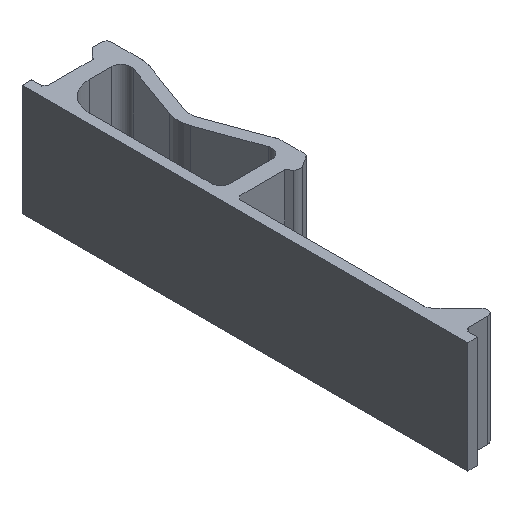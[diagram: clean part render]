
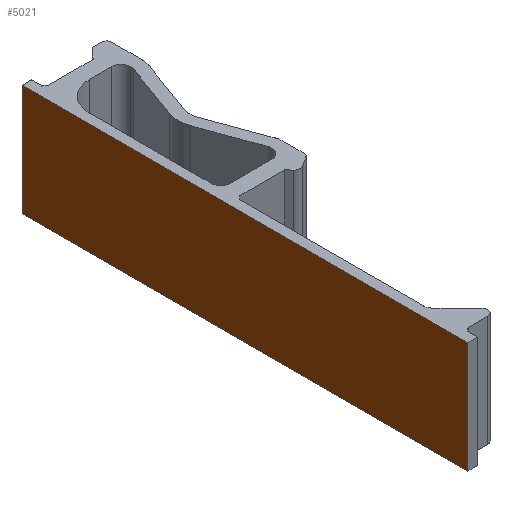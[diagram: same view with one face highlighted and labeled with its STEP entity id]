
A CAD part, isometric view. The second image highlights one B-rep face of the part: STEP entity #5021.
In plain terms, the highlighted planar face has unit normal (-1, 0, 0).
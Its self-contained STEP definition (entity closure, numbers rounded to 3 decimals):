
#2907 = PLANE('',#2908);
#2908 = AXIS2_PLACEMENT_3D('',#2909,#2910,#2911);
#2909 = CARTESIAN_POINT('',(3.25,0.,-5.75));
#2910 = DIRECTION('',(0.,0.,1.));
#2911 = DIRECTION('',(1.,0.,-0.));
#3097 = VERTEX_POINT('',#3098);
#3098 = CARTESIAN_POINT('',(-1.,-34.85,-5.75));
#3112 = PLANE('',#3113);
#3113 = AXIS2_PLACEMENT_3D('',#3114,#3115,#3116);
#3114 = CARTESIAN_POINT('',(-1.,-34.85,0.));
#3115 = DIRECTION('',(0.,-1.,0.));
#3116 = DIRECTION('',(1.,0.,0.));
#3124 = EDGE_CURVE('',#3125,#3097,#3127,.T.);
#3125 = VERTEX_POINT('',#3126);
#3126 = CARTESIAN_POINT('',(-1.,11.25,-5.75));
#3127 = SURFACE_CURVE('',#3128,(#3132,#3139),.PCURVE_S1.);
#3128 = LINE('',#3129,#3130);
#3129 = CARTESIAN_POINT('',(-1.,-11.25,-5.75));
#3130 = VECTOR('',#3131,1.);
#3131 = DIRECTION('',(0.,-1.,0.));
#3132 = PCURVE('',#2907,#3133);
#3133 = DEFINITIONAL_REPRESENTATION('',(#3134),#3138);
#3134 = LINE('',#3135,#3136);
#3135 = CARTESIAN_POINT('',(-4.25,-11.25));
#3136 = VECTOR('',#3137,1.);
#3137 = DIRECTION('',(0.,-1.));
#3138 = ( GEOMETRIC_REPRESENTATION_CONTEXT(2) 
PARAMETRIC_REPRESENTATION_CONTEXT() REPRESENTATION_CONTEXT('2D SPACE',''
  ) );
#3139 = PCURVE('',#3140,#3145);
#3140 = PLANE('',#3141);
#3141 = AXIS2_PLACEMENT_3D('',#3142,#3143,#3144);
#3142 = CARTESIAN_POINT('',(-1.,11.25,0.));
#3143 = DIRECTION('',(-1.,0.,0.));
#3144 = DIRECTION('',(0.,-1.,0.));
#3145 = DEFINITIONAL_REPRESENTATION('',(#3146),#3150);
#3146 = LINE('',#3147,#3148);
#3147 = CARTESIAN_POINT('',(22.5,-5.75));
#3148 = VECTOR('',#3149,1.);
#3149 = DIRECTION('',(1.,0.));
#3150 = ( GEOMETRIC_REPRESENTATION_CONTEXT(2) 
PARAMETRIC_REPRESENTATION_CONTEXT() REPRESENTATION_CONTEXT('2D SPACE',''
  ) );
#3168 = PLANE('',#3169);
#3169 = AXIS2_PLACEMENT_3D('',#3170,#3171,#3172);
#3170 = CARTESIAN_POINT('',(0.,11.25,0.));
#3171 = DIRECTION('',(0.,1.,0.));
#3172 = DIRECTION('',(-1.,0.,0.));
#4096 = PLANE('',#4097);
#4097 = AXIS2_PLACEMENT_3D('',#4098,#4099,#4100);
#4098 = CARTESIAN_POINT('',(3.25,0.,5.75));
#4099 = DIRECTION('',(0.,0.,1.));
#4100 = DIRECTION('',(1.,0.,-0.));
#4978 = VERTEX_POINT('',#4979);
#4979 = CARTESIAN_POINT('',(-1.,-34.85,5.75));
#5000 = EDGE_CURVE('',#3097,#4978,#5001,.T.);
#5001 = SURFACE_CURVE('',#5002,(#5006,#5013),.PCURVE_S1.);
#5002 = LINE('',#5003,#5004);
#5003 = CARTESIAN_POINT('',(-1.,-34.85,0.));
#5004 = VECTOR('',#5005,1.);
#5005 = DIRECTION('',(0.,0.,1.));
#5006 = PCURVE('',#3112,#5007);
#5007 = DEFINITIONAL_REPRESENTATION('',(#5008),#5012);
#5008 = LINE('',#5009,#5010);
#5009 = CARTESIAN_POINT('',(0.,0.));
#5010 = VECTOR('',#5011,1.);
#5011 = DIRECTION('',(0.,1.));
#5012 = ( GEOMETRIC_REPRESENTATION_CONTEXT(2) 
PARAMETRIC_REPRESENTATION_CONTEXT() REPRESENTATION_CONTEXT('2D SPACE',''
  ) );
#5013 = PCURVE('',#3140,#5014);
#5014 = DEFINITIONAL_REPRESENTATION('',(#5015),#5019);
#5015 = LINE('',#5016,#5017);
#5016 = CARTESIAN_POINT('',(46.1,0.));
#5017 = VECTOR('',#5018,1.);
#5018 = DIRECTION('',(0.,1.));
#5019 = ( GEOMETRIC_REPRESENTATION_CONTEXT(2) 
PARAMETRIC_REPRESENTATION_CONTEXT() REPRESENTATION_CONTEXT('2D SPACE',''
  ) );
#5021 = ADVANCED_FACE('',(#5022),#3140,.T.);
#5022 = FACE_BOUND('',#5023,.T.);
#5023 = EDGE_LOOP('',(#5024,#5025,#5048,#5069));
#5024 = ORIENTED_EDGE('',*,*,#5000,.T.);
#5025 = ORIENTED_EDGE('',*,*,#5026,.F.);
#5026 = EDGE_CURVE('',#5027,#4978,#5029,.T.);
#5027 = VERTEX_POINT('',#5028);
#5028 = CARTESIAN_POINT('',(-1.,11.25,5.75));
#5029 = SURFACE_CURVE('',#5030,(#5034,#5041),.PCURVE_S1.);
#5030 = LINE('',#5031,#5032);
#5031 = CARTESIAN_POINT('',(-1.,-11.25,5.75));
#5032 = VECTOR('',#5033,1.);
#5033 = DIRECTION('',(0.,-1.,0.));
#5034 = PCURVE('',#3140,#5035);
#5035 = DEFINITIONAL_REPRESENTATION('',(#5036),#5040);
#5036 = LINE('',#5037,#5038);
#5037 = CARTESIAN_POINT('',(22.5,5.75));
#5038 = VECTOR('',#5039,1.);
#5039 = DIRECTION('',(1.,0.));
#5040 = ( GEOMETRIC_REPRESENTATION_CONTEXT(2) 
PARAMETRIC_REPRESENTATION_CONTEXT() REPRESENTATION_CONTEXT('2D SPACE',''
  ) );
#5041 = PCURVE('',#4096,#5042);
#5042 = DEFINITIONAL_REPRESENTATION('',(#5043),#5047);
#5043 = LINE('',#5044,#5045);
#5044 = CARTESIAN_POINT('',(-4.25,-11.25));
#5045 = VECTOR('',#5046,1.);
#5046 = DIRECTION('',(0.,-1.));
#5047 = ( GEOMETRIC_REPRESENTATION_CONTEXT(2) 
PARAMETRIC_REPRESENTATION_CONTEXT() REPRESENTATION_CONTEXT('2D SPACE',''
  ) );
#5048 = ORIENTED_EDGE('',*,*,#5049,.F.);
#5049 = EDGE_CURVE('',#3125,#5027,#5050,.T.);
#5050 = SURFACE_CURVE('',#5051,(#5055,#5062),.PCURVE_S1.);
#5051 = LINE('',#5052,#5053);
#5052 = CARTESIAN_POINT('',(-1.,11.25,0.));
#5053 = VECTOR('',#5054,1.);
#5054 = DIRECTION('',(0.,0.,1.));
#5055 = PCURVE('',#3140,#5056);
#5056 = DEFINITIONAL_REPRESENTATION('',(#5057),#5061);
#5057 = LINE('',#5058,#5059);
#5058 = CARTESIAN_POINT('',(0.,0.));
#5059 = VECTOR('',#5060,1.);
#5060 = DIRECTION('',(0.,1.));
#5061 = ( GEOMETRIC_REPRESENTATION_CONTEXT(2) 
PARAMETRIC_REPRESENTATION_CONTEXT() REPRESENTATION_CONTEXT('2D SPACE',''
  ) );
#5062 = PCURVE('',#3168,#5063);
#5063 = DEFINITIONAL_REPRESENTATION('',(#5064),#5068);
#5064 = LINE('',#5065,#5066);
#5065 = CARTESIAN_POINT('',(1.,0.));
#5066 = VECTOR('',#5067,1.);
#5067 = DIRECTION('',(0.,1.));
#5068 = ( GEOMETRIC_REPRESENTATION_CONTEXT(2) 
PARAMETRIC_REPRESENTATION_CONTEXT() REPRESENTATION_CONTEXT('2D SPACE',''
  ) );
#5069 = ORIENTED_EDGE('',*,*,#3124,.T.);
